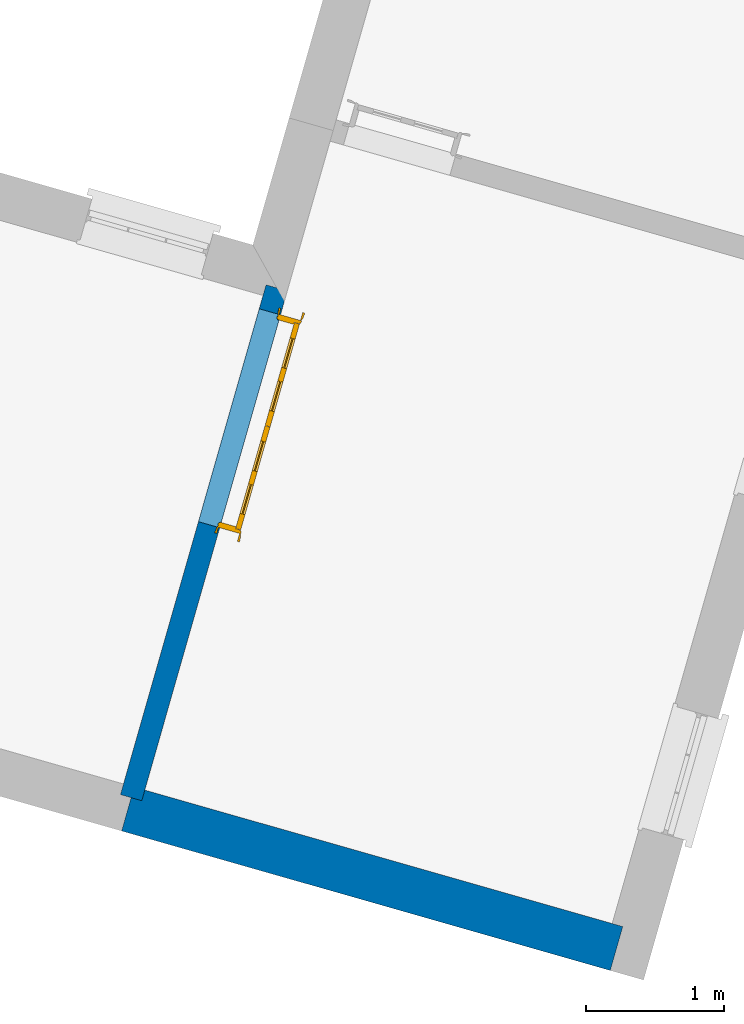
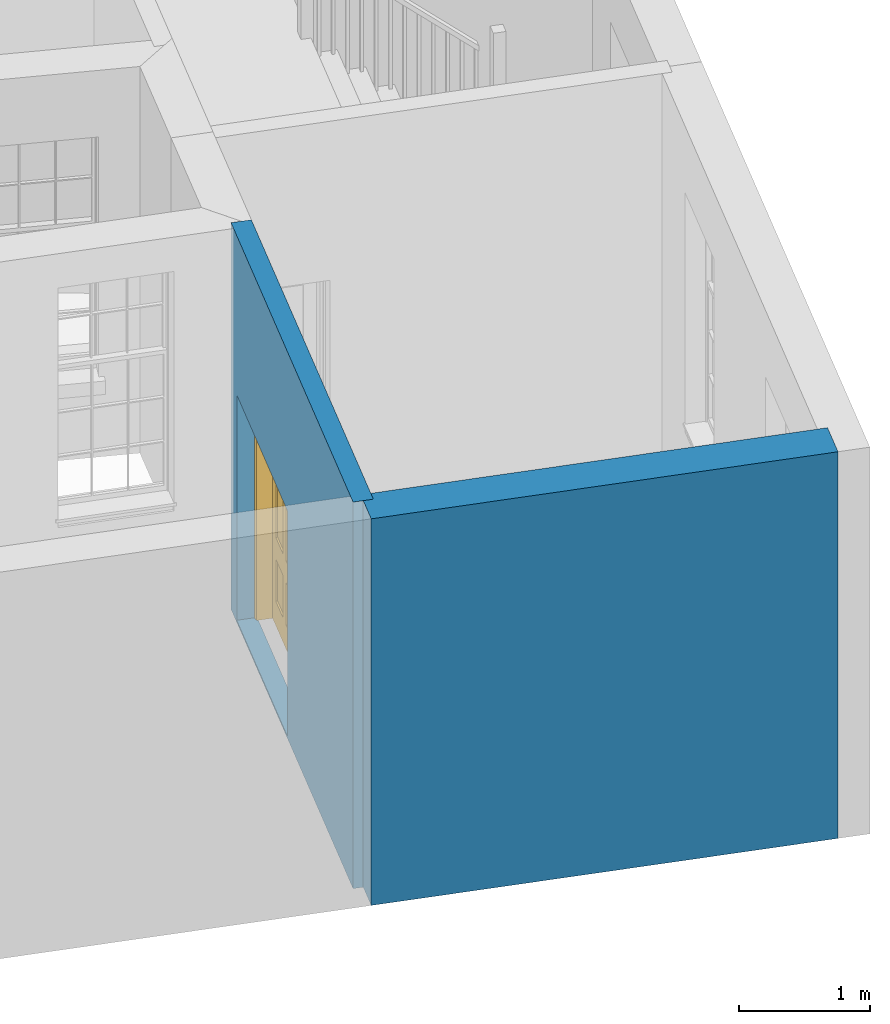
# One storey, part 2 of 6: 2 walls, 1 door, 1 opening.
"""IFC4 building model written with IfcOpenShell, lengths in metres."""

import ifcopenshell
import ifcopenshell.guid

model = None  # the IFC model being written
_history = None  # IfcOwnerHistory: only IFC2X3 demands one
_inside = {}  # id of a spatial element -> (the spatial element, [elements in it])
_under = {}  # id of a project, library or spatial element -> (it, [spatial elements below it])
_declared = {}  # id of a project -> (the project, [libraries it declares])
_typed = {}  # id of a type object -> (the type object, [elements of that type])
_made_of = {}  # id of a material, layer set ... -> (it, [elements and type objects made of it])


def new_model(schema):
    """Start an empty IFC model of exactly this schema.

    Asked for "IFC4X3", IfcOpenShell would pick the latest addendum, in which some entities
    have other attributes; the version numbers below select the first issue.
    IFC2X3 requires an IfcOwnerHistory on every rooted entity: one is made here for all.
    """
    global model, _history
    if schema == "IFC4X3":
        model = ifcopenshell.file(schema_version=(4, 3, 0, 0))
    else:
        model = ifcopenshell.file(schema=schema)
    _inside.clear()
    _under.clear()
    _declared.clear()
    _typed.clear()
    _made_of.clear()
    _history = None
    if model.schema == "IFC2X3":
        org = make("IfcOrganization", Name="unknown")
        user = make(
            "IfcPersonAndOrganization",
            ThePerson=make("IfcPerson", FamilyName="unknown"),
            TheOrganization=org,
        )
        app = make(
            "IfcApplication",
            ApplicationDeveloper=org,
            Version="unknown",
            ApplicationFullName="unknown",
            ApplicationIdentifier="unknown",
        )
        _history = make(
            "IfcOwnerHistory",
            OwningUser=user,
            OwningApplication=app,
            ChangeAction="ADDED",
            CreationDate=0,
        )
    return model


def make(cls, **values):
    """One entity of the class cls with the attributes given. An attribute that is None is left unset."""
    return model.create_entity(
        cls, **{name: value for name, value in values.items() if value is not None}
    )


def rooted(cls, **values):
    """An entity with a GlobalId (a new one), such as an element, a storey or a relation."""
    return make(cls, GlobalId=ifcopenshell.guid.new(), OwnerHistory=_history, **values)


def si_unit(unit_type, name, prefix=None):
    """IfcSIUnit, for example si_unit("LENGTHUNIT", "METRE", prefix="MILLI")."""
    return make("IfcSIUnit", UnitType=unit_type, Prefix=prefix, Name=name)


def assignment(units):
    """IfcUnitAssignment: the units of a project."""
    return None if units is None else make("IfcUnitAssignment", Units=units)


def point(xyz):
    """IfcCartesianPoint."""
    return None if xyz is None else make("IfcCartesianPoint", Coordinates=xyz)


def direction(xyz):
    """IfcDirection."""
    return None if xyz is None else make("IfcDirection", DirectionRatios=xyz)


def frame(location, z_axis=None, x_axis=None):
    """IfcAxis2Placement3D, a coordinate frame: its origin and axes. An axis left out is left unset."""
    return make(
        "IfcAxis2Placement3D",
        Location=point(location),
        Axis=direction(z_axis),
        RefDirection=direction(x_axis),
    )


def origin():
    """The frame at (0, 0, 0) with its axes left unset."""
    return frame((0.0, 0.0, 0.0))


def origin_with_axes():
    """The frame at (0, 0, 0) with the z axis (0, 0, 1) and the x axis (1, 0, 0) written out."""
    return frame((0.0, 0.0, 0.0), z_axis=(0.0, 0.0, 1.0), x_axis=(1.0, 0.0, 0.0))


def place(relative_to, where):
    """IfcLocalPlacement: puts the frame where relative to a parent placement (None: the world)."""
    return make(
        "IfcLocalPlacement", PlacementRelTo=relative_to, RelativePlacement=where
    )


def context(
    kind, dimensions, precision=None, world=None, true_north=None, identifier=None
):
    """IfcGeometricRepresentationContext, for example the 3D "Model" context."""
    return make(
        "IfcGeometricRepresentationContext",
        ContextIdentifier=identifier,
        ContextType=kind,
        CoordinateSpaceDimension=dimensions,
        Precision=precision,
        WorldCoordinateSystem=world,
        TrueNorth=true_north,
    )


def subcontext(parent, identifier, kind, view, scale=None):
    """IfcGeometricRepresentationSubContext, for example "Body" below "Model"."""
    return make(
        "IfcGeometricRepresentationSubContext",
        ContextIdentifier=identifier,
        ContextType=kind,
        ParentContext=parent,
        TargetScale=scale,
        TargetView=view,
    )


def project(units=None, contexts=None):
    """IfcProject with its units and contexts."""
    return rooted(
        "IfcProject",
        Name="project",
        RepresentationContexts=contexts,
        UnitsInContext=assignment(units),
    )


def spatial(cls, under=None, at=None, **own):
    """A site, building, storey or space (cls), placed at a placement, below another one or the project."""
    s = rooted(cls, ObjectPlacement=at, **own)
    if under is not None:
        _under.setdefault(under.id(), (under, []))[1].append(s)
    return s


def polyline(points):
    """IfcPolyline through the points."""
    return make("IfcPolyline", Points=[point(p) for p in points])


def outline(outer, holes=None, kind="AREA"):
    """IfcArbitraryClosedProfileDef: a profile drawn as a closed curve; with holes, ...WithVoids."""
    if holes is None:
        return make("IfcArbitraryClosedProfileDef", ProfileType=kind, OuterCurve=outer)
    return make(
        "IfcArbitraryProfileDefWithVoids",
        ProfileType=kind,
        OuterCurve=outer,
        InnerCurves=holes,
    )


def extrude(swept, where, along, depth):
    """IfcExtrudedAreaSolid: the profile swept, set in the frame where, extruded along a direction by depth."""
    return make(
        "IfcExtrudedAreaSolid",
        SweptArea=swept,
        Position=where,
        ExtrudedDirection=direction(along),
        Depth=depth,
    )


def faces_of(points, faces, orient=None, outer=None):
    """IfcFace entities. A face is a list of loops; a loop is a list of indices into points, from 0.

    orient and outer hold one flag for each loop. By default every Orientation is true, the
    first loop of a face is its IfcFaceOuterBound and the others are IfcFaceBound.
    """
    made = []
    for i, loops in enumerate(faces):
        bounds = []
        for j, loop in enumerate(loops):
            is_outer = j == 0 if outer is None else outer[i][j]
            bounds.append(
                make(
                    "IfcFaceOuterBound" if is_outer else "IfcFaceBound",
                    Bound=make("IfcPolyLoop", Polygon=[points[k] for k in loop]),
                    Orientation=True if orient is None else orient[i][j],
                )
            )
        made.append(make("IfcFace", Bounds=bounds))
    return made


def faceted_brep(points, faces, orient=None, outer=None, voids=None):
    """IfcFacetedBrep: a solid bounded by flat faces; with voids (closed shells), ...WithVoids."""
    shared = [point(p) for p in points]
    hull = make("IfcClosedShell", CfsFaces=faces_of(shared, faces, orient, outer))
    if voids is None:
        return make("IfcFacetedBrep", Outer=hull)
    return make(
        "IfcFacetedBrepWithVoids",
        Outer=hull,
        Voids=[
            make(cls, CfsFaces=faces_of(shared, fs, o, b)) for cls, fs, o, b in voids
        ],
    )


def shape(context_of_items, identifier, shape_type, items):
    """IfcShapeRepresentation: the items that make up one representation, for example the "Body"."""
    return make(
        "IfcShapeRepresentation",
        ContextOfItems=context_of_items,
        RepresentationIdentifier=identifier,
        RepresentationType=shape_type,
        Items=items,
    )


def source(mapping_origin, context_of_items, identifier, shape_type, items):
    """IfcRepresentationMap: a shape defined once, which mapped items show again and again."""
    return make(
        "IfcRepresentationMap",
        MappingOrigin=mapping_origin,
        MappedRepresentation=shape(context_of_items, identifier, shape_type, items),
    )


def transform(
    local_origin,
    x_axis=None,
    y_axis=None,
    z_axis=None,
    scale=None,
    scale2=None,
    scale3=None,
    uniform=True,
):
    """IfcCartesianTransformationOperator3D, or its non-uniform kind. x_axis, y_axis, z_axis: its Axis1, 2, 3."""
    if uniform:
        return make(
            "IfcCartesianTransformationOperator3D",
            Axis1=direction(x_axis),
            Axis2=direction(y_axis),
            LocalOrigin=point(local_origin),
            Scale=scale,
            Axis3=direction(z_axis),
        )
    return make(
        "IfcCartesianTransformationOperator3DnonUniform",
        Axis1=direction(x_axis),
        Axis2=direction(y_axis),
        LocalOrigin=point(local_origin),
        Scale=scale,
        Axis3=direction(z_axis),
        Scale2=scale2,
        Scale3=scale3,
    )


def mapped(mapping_source, mapping_target):
    """IfcMappedItem: shows the shape of a source again, moved by a transform."""
    return make(
        "IfcMappedItem", MappingSource=mapping_source, MappingTarget=mapping_target
    )


def material(Name=None, Category=None):
    """IfcMaterial."""
    return make("IfcMaterial", Name=Name, Category=Category)


def layer(
    of_material, thickness, ventilated=None, Name=None, Category=None, Priority=None
):
    """IfcMaterialLayer: one layer of a wall or slab, of a material (None: an air gap)."""
    return make(
        "IfcMaterialLayer",
        Material=of_material,
        LayerThickness=thickness,
        IsVentilated=ventilated,
        Name=Name,
        Category=Category,
        Priority=Priority,
    )


def layer_set(layers, Name=None):
    """IfcMaterialLayerSet."""
    return make("IfcMaterialLayerSet", MaterialLayers=layers, LayerSetName=Name)


def layer_usage(for_layer_set, set_direction, sense, offset, extent=None):
    """IfcMaterialLayerSetUsage: how a layer set lies in its element."""
    return make(
        "IfcMaterialLayerSetUsage",
        ForLayerSet=for_layer_set,
        LayerSetDirection=set_direction,
        DirectionSense=sense,
        OffsetFromReferenceLine=offset,
        ReferenceExtent=extent,
    )


def made_of(thing, what):
    """Note that an element or type object is made of a material, layer set ...; save() writes the relation."""
    if what is not None:
        _made_of.setdefault(what.id(), (what, []))[1].append(thing)
    return thing


def type_object(cls, material=None, **own):
    """A type object (cls), such as IfcWallType, which elements share."""
    return made_of(rooted(cls, **own), material)


def type_shapes(of_type, sources):
    """Give a type object the sources (RepresentationMaps) that its elements show as mapped items."""
    of_type.RepresentationMaps = sources


def element(
    cls,
    number,
    at=None,
    inside=None,
    cuts=None,
    type_object=None,
    material=None,
    context=None,
    identifier="Body",
    shape_type=None,
    held_by="IfcProductDefinitionShape",
    body=None,
    shapes=None,
    **own,
):
    """One element of the class cls, such as IfcWall. Its Tag is "e" and its number.

    at: its placement. inside: the storey or other place that contains it. cuts: it is an
    opening in that element (IfcRelVoidsElement). A single representation is given by context,
    identifier, shape_type and body (its items); several are given by shapes. held_by: the class
    of the entity that holds the representations. save() writes the other relations.
    """
    e = rooted(cls, Tag="e%d" % number, ObjectPlacement=at, **own)
    if body is not None:
        shapes = [shape(context, identifier, shape_type, body)]
    if shapes is not None:
        e.Representation = make(held_by, Representations=shapes)
    if inside is not None:
        _inside.setdefault(inside.id(), (inside, []))[1].append(e)
    if cuts is not None:
        rooted(
            "IfcRelVoidsElement", RelatingBuildingElement=cuts, RelatedOpeningElement=e
        )
    if type_object is not None:
        _typed.setdefault(type_object.id(), (type_object, []))[1].append(e)
    return made_of(e, material)


def fill(opening, filler):
    """IfcRelFillsElement: the door or window that sits in an opening."""
    return rooted(
        "IfcRelFillsElement",
        RelatingOpeningElement=opening,
        RelatedBuildingElement=filler,
    )


def aggregate(whole, parts):
    """IfcRelAggregates: a whole, such as a stair, and the parts it consists of."""
    return rooted("IfcRelAggregates", RelatingObject=whole, RelatedObjects=parts)


def save(model, path):
    """Write the relations noted so far, then the file.

    IfcRelAggregates (storeys below a building ...), IfcRelContainedInSpatialStructure (elements
    in a storey), IfcRelDefinesByType, IfcRelAssociatesMaterial and IfcRelDeclares: one each for
    every whole, place, type object, material and project.
    """
    for whole, parts in _under.values():
        aggregate(whole, parts)
    for where, things in _inside.values():
        rooted(
            "IfcRelContainedInSpatialStructure",
            RelatedElements=things,
            RelatingStructure=where,
        )
    for kind, things in _typed.values():
        rooted("IfcRelDefinesByType", RelatedObjects=things, RelatingType=kind)
    for what, things in _made_of.values():
        rooted("IfcRelAssociatesMaterial", RelatedObjects=things, RelatingMaterial=what)
    for by, libraries in _declared.values():
        rooted("IfcRelDeclares", RelatingContext=by, RelatedDefinitions=libraries)
    model.write(path)


model = new_model("IFC4")

# Units and contexts
model_context = context("Model", 3, world=origin_with_axes())
body_context = subcontext(model_context, "Body", "Model", "MODEL_VIEW")
ifc_project = project(units=[si_unit("PLANEANGLEUNIT", "RADIAN"), si_unit("MASSUNIT", "GRAM", prefix="KILO"), si_unit("FORCEUNIT", "NEWTON", prefix="KILO"), si_unit("LENGTHUNIT", "METRE"), si_unit("AREAUNIT", "SQUARE_METRE"), si_unit("VOLUMEUNIT", "CUBIC_METRE")], contexts=[model_context, model_context])

# Sites, building, storey
site_1_placement = place(None, origin_with_axes())
site_1 = spatial("IfcSite", under=ifc_project, at=site_1_placement, Name="Tamar")
site_2_placement = place(site_1_placement, origin_with_axes())
site_2 = spatial("IfcSite", under=site_1, at=site_2_placement, Name="Site plot-19", CompositionType="ELEMENT")
building_placement = place(None, origin_with_axes())
building = spatial("IfcBuilding", under=site_2, at=building_placement, Name="Building plot-19", CompositionType="ELEMENT")
storey_placement = place(None, frame((0.0, 0.0, 26.8), z_axis=(0.0, 0.0, 1.0), x_axis=(1.0, 0.0, 0.0)))
storey = spatial("IfcBuildingStorey", under=building, at=storey_placement, Name="plot-19 0", CompositionType="ELEMENT", Elevation=26.8)

# Wall
ifc_material_1 = material(Name="Masonry")
ifc_layer_1 = layer(ifc_material_1, 0.33, ventilated=False)
ifc_layer_set_1 = layer_set([ifc_layer_1], Name="party_0.08_0.25")
ifc_layer_usage_1 = layer_usage(ifc_layer_set_1, "AXIS2", "POSITIVE", -0.25)
wall_type_1 = type_object("IfcWallType", Name="party_0.08_0.25", PredefinedType="SOLIDWALL", material=ifc_layer_set_1)
wall_1_placement = place(storey_placement, frame((279.004893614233, 294.360851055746, 0.0), z_axis=(0.0, 0.0, 1.0), x_axis=(0.961567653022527, -0.274568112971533, 0.0)))
element("IfcWall", 1, at=wall_1_placement, inside=storey, type_object=wall_type_1, material=ifc_layer_usage_1, Name="party", context=body_context, shape_type="SweptSolid", body=[
    extrude(outline(polyline([(1.62052729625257e-14, 0.079999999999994), (-1.07040652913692e-14, -0.249999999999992), (3.67124937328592, -0.249999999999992), (3.67124937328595, 0.079999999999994), (1.62052729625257e-14, 0.079999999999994)])), origin_with_axes(), (0.0, 0.0, 1.0), 3.6),
])

# Wall, opening, door
ifc_material_2 = material(Name="Masonry")
ifc_layer_2 = layer(ifc_material_2, 0.16, ventilated=False)
ifc_layer_set_2 = layer_set([ifc_layer_2], Name="interior_0.08_0.08")
ifc_layer_usage_2 = layer_usage(ifc_layer_set_2, "AXIS2", "POSITIVE", -0.08)
wall_type_2 = type_object("IfcWallType", Name="interior_0.08_0.08", PredefinedType="SOLIDWALL", material=ifc_layer_set_2)
wall_2_placement = place(storey_placement, frame((280.056584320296, 298.043987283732, 0.0), z_axis=(0.0, 0.0, 1.0), x_axis=(-0.274568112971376, -0.961567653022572, 0.0)))
wall_2 = element("IfcWall", 2, at=wall_2_placement, inside=storey, type_object=wall_type_2, material=ifc_layer_usage_2, Name="interior", context=body_context, shape_type="SweptSolid", body=[
    extrude(outline(polyline([(2.92596649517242e-14, 0.079999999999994), (-2.92694621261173e-14, -0.079999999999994), (3.83034539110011, -0.0799999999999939), (3.83034539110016, 0.0799999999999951), (2.92596649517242e-14, 0.079999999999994)])), origin_with_axes(), (0.0, 0.0, 1.0), 3.6),
])
opening_placement = place(wall_2_placement, frame((0.179999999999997, 0.0, 0.0199999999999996)))
opening = element("IfcOpeningElement", 3, at=opening_placement, cuts=wall_2, Name="My Opening", ObjectType="Opening", context=body_context, shape_type="SweptSolid", body=[
    extrude(outline(polyline([(0.0, -0.100000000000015), (1.60000000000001, -0.100000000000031), (1.60000000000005, 1.10000000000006), (3.28070903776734e-14, 1.10000000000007), (0.0, -0.100000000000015)])), origin_with_axes(), (0.0, 0.0, 1.0), 2.1),
])
door_type = type_object("IfcDoorType", Name="door_inside_double", OperationType="SINGLE_SWING_LEFT", PredefinedType="NOTDEFINED")
shared_shape = source(origin(), body_context, "Body", "Brep", [
    faceted_brep([(0.14, 0.307, 1.895), (0.14, 0.307, 0.82), (0.363, 0.307, 0.82), (0.363, 0.307, 1.895), (0.14, 0.292, 1.895), (0.14, 0.292, 0.82), (0.363, 0.292, 0.82), (0.363, 0.292, 1.895), (0.027, 0.292, 1.895), (0.027, 0.292, 0.82), (0.363, 0.292, 0.62), (0.14, 0.292, 0.62), (0.463, 0.292, 0.82), (0.463, 0.292, 1.895), (0.363, 0.292, 2.073), (0.14, 0.292, 2.073), (0.027, 0.292, 2.073), (0.027, 0.33, 1.895), (0.027, 0.33, 0.82), (0.027, 0.292, 0.62), (0.463, 0.292, 0.62), (0.14, 0.307, 0.62), (0.363, 0.307, 0.62), (0.463, 0.307, 0.82), (0.463, 0.307, 1.895), (0.463, 0.292, 2.073), (0.14, 0.33, 2.073), (0.363, 0.33, 2.073), (0.027, 0.33, 2.073), (0.14, 0.33, 1.895), (0.14, 0.33, 0.82), (0.027, 0.33, 0.62), (0.027, 0.292, 0.225), (0.14, 0.292, 0.225), (0.363, 0.292, 0.225), (0.463, 0.292, 0.225), (0.686, 0.292, 0.62), (0.686, 0.292, 0.82), (0.14, 0.307, 0.225), (0.363, 0.307, 0.225), (0.686, 0.307, 0.82), (0.686, 0.307, 1.895), (0.686, 0.292, 1.895), (0.686, 0.292, 2.073), (0.463, 0.33, 2.073), (0.363, 0.33, 1.895), (0.14, 0.315, 1.895), (0.14, 0.315, 0.82), (0.14, 0.33, 0.62), (0.027, 0.33, 0.225), (0.027, 0.292, 0.0), (0.14, 0.292, 0.0), (0.363, 0.292, 0.0), (0.463, 0.292, 0.0), (0.463, 0.307, 0.225), (0.463, 0.307, 0.62), (0.686, 0.307, 0.62), (0.799, 0.292, 0.62), (0.799, 0.292, 0.82), (0.799, 0.292, 1.895), (0.799, 0.292, 2.073), (0.686, 0.33, 2.073), (0.463, 0.33, 1.895), (0.363, 0.315, 1.895), (0.363, 0.315, 0.82), (0.363, 0.33, 0.82), (0.363, 0.33, 0.62), (0.14, 0.33, 0.225), (0.027, 0.33, 0.0), (0.14, 0.33, 0.0), (0.363, 0.33, 0.0), (0.463, 0.33, 0.0), (0.686, 0.292, 0.0), (0.686, 0.292, 0.225), (0.686, 0.307, 0.225), (0.799, 0.292, 0.225), (0.799, 0.33, 0.62), (0.799, 0.33, 0.82), (0.799, 0.33, 1.895), (0.799, 0.33, 2.073), (0.686, 0.33, 1.895), (0.463, 0.33, 0.82), (0.463, 0.33, 0.62), (0.363, 0.315, 0.62), (0.14, 0.315, 0.62), (0.14, 0.315, 0.225), (0.363, 0.33, 0.225), (0.463, 0.33, 0.225), (0.686, 0.33, 0.0), (0.799, 0.292, 0.0), (0.799, 0.33, 0.225), (0.686, 0.33, 0.62), (0.686, 0.33, 0.82), (0.686, 0.315, 1.895), (0.463, 0.315, 1.895), (0.463, 0.315, 0.82), (0.363, 0.315, 0.225), (0.686, 0.33, 0.225), (0.799, 0.33, 0.0), (0.686, 0.315, 0.82), (0.463, 0.315, 0.62), (0.463, 0.315, 0.225), (0.686, 0.315, 0.62), (0.686, 0.315, 0.225), (1.46, 0.33, 1.895), (1.237, 0.33, 1.895), (1.237, 0.33, 2.073), (1.46, 0.33, 2.073), (1.46, 0.315, 1.895), (1.237, 0.315, 1.895), (1.137, 0.33, 1.895), (1.137, 0.33, 2.073), (1.237, 0.292, 2.073), (1.46, 0.292, 2.073), (1.573, 0.33, 1.895), (1.573, 0.33, 2.073), (1.46, 0.33, 0.82), (1.46, 0.315, 0.82), (1.237, 0.315, 0.82), (1.237, 0.33, 0.82), (1.137, 0.33, 0.82), (0.914, 0.33, 2.073), (0.914, 0.33, 1.895), (1.137, 0.292, 2.073), (1.237, 0.292, 1.895), (1.46, 0.292, 1.895), (1.573, 0.292, 2.073), (1.573, 0.33, 0.82), (1.573, 0.292, 1.895), (1.237, 0.33, 0.62), (1.137, 0.33, 0.62), (1.137, 0.315, 0.82), (1.137, 0.315, 1.895), (0.914, 0.292, 2.073), (0.914, 0.315, 1.895), (0.801, 0.33, 2.073), (0.801, 0.33, 1.895), (1.137, 0.292, 1.895), (1.237, 0.307, 1.895), (1.46, 0.307, 1.895), (1.573, 0.292, 0.82), (1.573, 0.33, 0.62), (1.46, 0.33, 0.62), (1.237, 0.33, 0.225), (1.137, 0.33, 0.225), (0.914, 0.33, 0.82), (0.914, 0.33, 0.62), (0.914, 0.315, 0.82), (0.801, 0.292, 2.073), (0.914, 0.292, 1.895), (0.801, 0.33, 0.82), (0.801, 0.292, 1.895), (1.137, 0.292, 0.82), (1.237, 0.292, 0.82), (1.237, 0.307, 0.82), (1.46, 0.307, 0.82), (1.46, 0.292, 0.82), (1.573, 0.292, 0.62), (1.573, 0.33, 0.225), (1.46, 0.33, 0.225), (1.46, 0.315, 0.62), (1.237, 0.315, 0.62), (1.237, 0.33, 0.0), (1.137, 0.33, 0.0), (1.137, 0.315, 0.225), (1.137, 0.315, 0.62), (1.237, 0.315, 0.225), (0.914, 0.315, 0.62), (0.801, 0.33, 0.62), (0.914, 0.307, 1.895), (1.137, 0.307, 1.895), (0.801, 0.292, 0.82), (1.137, 0.292, 0.62), (1.237, 0.292, 0.62), (1.137, 0.307, 0.82), (1.46, 0.292, 0.62), (1.573, 0.292, 0.225), (1.573, 0.33, 0.0), (1.46, 0.33, 0.0), (1.46, 0.315, 0.225), (1.237, 0.292, 0.0), (1.137, 0.292, 0.0), (0.914, 0.33, 0.225), (0.914, 0.33, 0.0), (0.914, 0.315, 0.225), (0.801, 0.33, 0.225), (0.801, 0.292, 0.62), (0.914, 0.292, 0.82), (0.914, 0.307, 0.82), (1.137, 0.292, 0.225), (1.237, 0.292, 0.225), (0.914, 0.292, 0.62), (1.46, 0.292, 0.225), (1.573, 0.292, 0.0), (1.46, 0.292, 0.0), (0.914, 0.292, 0.0), (0.801, 0.33, 0.0), (0.801, 0.292, 0.225), (1.237, 0.307, 0.225), (1.237, 0.307, 0.62), (1.137, 0.307, 0.62), (1.137, 0.307, 0.225), (1.46, 0.307, 0.62), (0.914, 0.307, 0.62), (1.46, 0.307, 0.225), (0.914, 0.292, 0.225), (0.801, 0.292, 0.0), (0.914, 0.307, 0.225), (0.02, 0.335, 0.0), (0.005, 0.34, 0.0), (0.005, 0.34, 2.095), (0.02, 0.335, 2.08), (0.02, 0.33, 0.0), (0.0, 0.335, 0.0), (0.0, 0.335, 2.1), (1.595, 0.34, 2.095), (1.58, 0.335, 2.08), (0.02, 0.33, 2.08), (0.0, 0.33, 0.0), (-0.032, 0.345, 0.0), (-0.032, 0.345, 2.132), (1.6, 0.335, 2.1), (1.595, 0.34, 0.0), (1.58, 0.335, 0.0), (1.58, 0.33, 2.08), (0.025, 0.33, 0.0), (0.025, 0.33, 2.075), (-0.04, 0.34, 0.0), (0.025, 0.29, 0.0), (0.0, 0.17, 0.0), (-0.04, 0.34, 2.14), (1.632, 0.345, 2.132), (1.6, 0.335, 0.0), (1.58, 0.33, 0.0), (1.575, 0.33, 2.075), (0.025, 0.29, 2.075), (-0.06, 0.33, 0.0), (0.035, 0.17, 0.0), (0.0, 0.17, 2.1), (0.0, 0.33, 2.1), (-0.04, 0.345, 0.0), (-0.04, 0.345, 2.14), (1.64, 0.34, 2.14), (1.632, 0.345, 0.0), (1.6, 0.33, 0.0), (1.575, 0.33, 0.0), (1.575, 0.29, 2.075), (0.04, 0.29, 0.0), (0.04, 0.29, 2.06), (-0.06, 0.345, 0.0), (-0.06, 0.33, 2.16), (0.015, 0.165, 0.0), (0.04, 0.17, 0.0), (-0.045, 0.17, 2.145), (-0.045, 0.17, 0.0), (1.6, 0.17, 2.1), (1.6, 0.33, 2.1), (-0.06, 0.345, 2.16), (1.64, 0.345, 2.14), (1.64, 0.34, 0.0), (1.6, 0.17, 0.0), (1.575, 0.29, 0.0), (1.56, 0.29, 2.06), (0.04, 0.17, 2.06), (1.66, 0.33, 2.16), (-0.017, 0.155, 0.0), (-0.025, 0.16, 0.0), (0.02, 0.16, 0.0), (0.035, 0.165, 0.0), (0.035, 0.17, 2.065), (1.645, 0.17, 2.145), (-0.045, 0.155, 2.145), (-0.045, 0.155, 0.0), (1.66, 0.345, 2.16), (1.64, 0.345, 0.0), (1.66, 0.33, 0.0), (1.565, 0.17, 0.0), (1.56, 0.29, 0.0), (1.56, 0.17, 2.06), (-0.017, 0.155, 2.117), (-0.025, 0.16, 2.125), (0.015, 0.165, 2.085), (0.02, 0.16, 2.08), (0.035, 0.165, 2.065), (1.565, 0.17, 2.065), (1.645, 0.17, 0.0), (1.645, 0.155, 2.145), (-0.025, 0.155, 0.0), (1.66, 0.345, 0.0), (1.585, 0.165, 0.0), (1.56, 0.17, 0.0), (1.617, 0.155, 2.117), (1.625, 0.16, 2.125), (-0.025, 0.155, 2.125), (1.585, 0.165, 2.085), (1.58, 0.16, 2.08), (1.565, 0.165, 2.065), (1.625, 0.16, 0.0), (1.645, 0.155, 0.0), (1.625, 0.155, 2.125), (1.617, 0.155, 0.0), (1.565, 0.165, 0.0), (1.58, 0.16, 0.0), (1.625, 0.155, 0.0)], [[[0, 1, 2, 3]], [[1, 0, 4, 5]], [[2, 1, 5, 6]], [[6, 7, 3, 2]], [[7, 4, 0, 3]], [[4, 8, 9, 5]], [[10, 6, 5, 11]], [[6, 12, 13, 7]], [[14, 15, 4, 7]], [[15, 16, 8, 4]], [[9, 8, 17, 18]], [[5, 9, 19, 11]], [[10, 20, 12, 6]], [[10, 11, 21, 22]], [[13, 12, 23, 24]], [[7, 13, 25, 14]], [[26, 15, 14, 27]], [[28, 16, 15, 26]], [[8, 16, 28, 17]], [[17, 29, 30, 18]], [[18, 31, 19, 9]], [[11, 19, 32, 33]], [[34, 35, 20, 10]], [[20, 36, 37, 12]], [[11, 33, 38, 21]], [[39, 22, 21, 38]], [[34, 10, 22, 39]], [[12, 37, 40, 23]], [[24, 23, 40, 41]], [[42, 13, 24, 41]], [[13, 42, 43, 25]], [[14, 25, 44, 27]], [[26, 27, 45, 29]], [[28, 26, 29, 17]], [[30, 29, 46, 47]], [[18, 30, 48, 31]], [[31, 49, 32, 19]], [[33, 32, 50, 51]], [[52, 53, 35, 34]], [[20, 35, 54, 55]], [[36, 20, 55, 56]], [[36, 57, 58, 37]], [[33, 34, 39, 38]], [[37, 42, 41, 40]], [[42, 59, 60, 43]], [[44, 25, 43, 61]], [[62, 45, 27, 44]], [[29, 45, 63, 46]], [[46, 63, 64, 47]], [[65, 30, 47, 64]], [[30, 65, 66, 48]], [[31, 48, 67, 49]], [[68, 50, 32, 49]], [[68, 69, 51, 50]], [[34, 33, 51, 52]], [[53, 52, 70, 71]], [[53, 72, 73, 35]], [[35, 73, 74, 54]], [[55, 54, 74, 56]], [[73, 36, 56, 74]], [[73, 75, 57, 36]], [[57, 76, 77, 58]], [[37, 58, 59, 42]], [[78, 79, 60, 59]], [[60, 79, 61, 43]], [[80, 62, 44, 61]], [[81, 65, 45, 62]], [[45, 65, 64, 63]], [[82, 66, 65, 81]], [[48, 66, 83, 84]], [[67, 48, 84, 85]], [[49, 67, 69, 68]], [[52, 51, 69, 70]], [[71, 70, 86, 87]], [[72, 53, 71, 88]], [[72, 89, 75, 73]], [[75, 90, 76, 57]], [[76, 91, 92, 77]], [[78, 59, 58, 77]], [[78, 80, 61, 79]], [[62, 80, 93, 94]], [[81, 62, 94, 95]], [[87, 86, 66, 82]], [[91, 82, 81, 92]], [[66, 86, 96, 83]], [[84, 83, 96, 85]], [[86, 67, 85, 96]], [[67, 86, 70, 69]], [[88, 71, 87, 97]], [[89, 72, 88, 98]], [[89, 98, 90, 75]], [[90, 97, 91, 76]], [[80, 78, 77, 92]], [[80, 92, 99, 93]], [[99, 95, 94, 93]], [[92, 81, 95, 99]], [[87, 82, 100, 101]], [[82, 91, 102, 100]], [[97, 87, 101, 103]], [[98, 88, 97, 90]], [[91, 97, 103, 102]], [[103, 101, 100, 102]], [[104, 105, 106, 107]], [[105, 104, 108, 109]], [[105, 110, 111, 106]], [[106, 112, 113, 107]], [[114, 104, 107, 115]], [[104, 116, 117, 108]], [[117, 118, 109, 108]], [[119, 105, 109, 118]], [[119, 120, 110, 105]], [[121, 111, 110, 122]], [[123, 112, 106, 111]], [[124, 125, 113, 112]], [[126, 115, 107, 113]], [[104, 114, 127, 116]], [[114, 115, 126, 128]], [[116, 119, 118, 117]], [[129, 130, 120, 119]], [[110, 120, 131, 132]], [[121, 133, 123, 111]], [[122, 110, 132, 134]], [[135, 121, 122, 136]], [[137, 124, 112, 123]], [[125, 124, 138, 139]], [[125, 128, 126, 113]], [[114, 128, 140, 127]], [[141, 142, 116, 127]], [[142, 129, 119, 116]], [[143, 144, 130, 129]], [[145, 120, 130, 146]], [[120, 145, 147, 131]], [[134, 132, 131, 147]], [[135, 148, 133, 121]], [[123, 133, 149, 137]], [[145, 122, 134, 147]], [[136, 122, 145, 150]], [[151, 148, 135, 136]], [[152, 153, 124, 137]], [[124, 153, 154, 138]], [[138, 154, 155, 139]], [[156, 125, 139, 155]], [[156, 140, 128, 125]], [[157, 141, 127, 140]], [[158, 159, 142, 141]], [[129, 142, 160, 161]], [[162, 163, 144, 143]], [[130, 144, 164, 165]], [[143, 129, 161, 166]], [[146, 130, 165, 167]], [[150, 145, 146, 168]], [[133, 148, 151, 149]], [[137, 149, 169, 170]], [[171, 151, 136, 150]], [[172, 173, 153, 152]], [[152, 137, 170, 174]], [[153, 156, 155, 154]], [[175, 157, 140, 156]], [[176, 158, 141, 157]], [[177, 178, 159, 158]], [[142, 159, 179, 160]], [[179, 166, 161, 160]], [[180, 181, 163, 162]], [[182, 144, 163, 183]], [[178, 162, 143, 159]], [[144, 182, 184, 164]], [[167, 165, 164, 184]], [[159, 143, 166, 179]], [[182, 146, 167, 184]], [[168, 146, 182, 185]], [[150, 168, 186, 171]], [[149, 151, 171, 187]], [[149, 187, 188, 169]], [[169, 188, 174, 170]], [[189, 190, 173, 172]], [[173, 175, 156, 153]], [[172, 152, 187, 191]], [[187, 152, 174, 188]], [[192, 176, 157, 175]], [[193, 177, 158, 176]], [[193, 194, 178, 177]], [[181, 180, 190, 189]], [[181, 195, 183, 163]], [[194, 180, 162, 178]], [[185, 182, 183, 196]], [[168, 185, 197, 186]], [[187, 171, 186, 191]], [[173, 190, 198, 199]], [[189, 172, 200, 201]], [[175, 173, 199, 202]], [[172, 191, 203, 200]], [[194, 193, 176, 192]], [[192, 175, 202, 204]], [[180, 194, 192, 190]], [[189, 205, 195, 181]], [[196, 183, 195, 206]], [[196, 206, 197, 185]], [[191, 186, 197, 205]], [[190, 192, 204, 198]], [[199, 198, 204, 202]], [[201, 200, 203, 207]], [[205, 189, 201, 207]], [[191, 205, 207, 203]], [[205, 197, 206, 195]], [[208, 209, 210, 211]], [[208, 212, 213, 209]], [[209, 213, 214, 210]], [[211, 210, 215, 216]], [[211, 217, 212, 208]], [[218, 213, 212]], [[213, 219, 220, 214]], [[210, 214, 221, 215]], [[216, 215, 222, 223]], [[217, 211, 216, 224]], [[225, 212, 217, 226]], [[219, 213, 218, 227]], [[218, 212, 228, 229]], [[219, 227, 230, 220]], [[214, 220, 231, 221]], [[215, 221, 232, 222]], [[222, 232, 233, 223]], [[224, 216, 223, 233]], [[226, 217, 224, 234]], [[225, 228, 212]], [[235, 228, 225, 226]], [[236, 227, 218]], [[237, 229, 228]], [[229, 238, 239, 218]], [[227, 240, 241, 230]], [[220, 230, 242, 231]], [[221, 231, 243, 232]], [[244, 233, 232]], [[234, 224, 233, 245]], [[246, 235, 226, 234]], [[247, 228, 235, 248]], [[240, 227, 236, 249]], [[239, 250, 236, 218]], [[251, 229, 237]], [[252, 237, 228, 247]], [[253, 238, 229, 254]], [[238, 255, 256, 239]], [[241, 240, 257]], [[230, 241, 258, 242]], [[231, 242, 259, 243]], [[259, 244, 232, 243]], [[260, 261, 233, 244]], [[245, 233, 261]], [[261, 246, 234, 245]], [[248, 235, 246, 262]], [[248, 263, 252, 247]], [[250, 257, 249, 236]], [[240, 249, 257]], [[256, 264, 250, 239]], [[265, 266, 229, 251]], [[267, 251, 237, 268]], [[263, 269, 237, 252]], [[270, 255, 238, 253]], [[229, 266, 254]], [[271, 253, 254, 272]], [[256, 255, 260, 244]], [[273, 241, 257]], [[273, 258, 241]], [[242, 258, 274, 259]], [[275, 244, 259]], [[260, 276, 261]], [[261, 277, 262, 246]], [[262, 278, 263, 248]], [[264, 273, 257, 250]], [[244, 275, 264, 256]], [[266, 265, 279, 280]], [[265, 251, 281, 279]], [[251, 267, 282, 281]], [[269, 283, 268, 237]], [[267, 268, 283, 282]], [[278, 284, 269, 263]], [[285, 260, 255, 270]], [[286, 270, 253, 271]], [[272, 254, 266, 287]], [[271, 272, 287]], [[273, 274, 258]], [[288, 275, 259, 274]], [[276, 260, 289]], [[277, 261, 276, 290]], [[278, 262, 277, 290]], [[275, 288, 273, 264]], [[280, 279, 291, 292]], [[287, 266, 280, 293]], [[279, 281, 294, 291]], [[281, 282, 295, 294]], [[284, 296, 283, 269]], [[282, 283, 296, 295]], [[290, 276, 284, 278]], [[285, 297, 260]], [[298, 285, 270, 286]], [[299, 286, 271]], [[271, 287, 293]], [[273, 288, 274]], [[300, 289, 260, 297]], [[301, 276, 289, 302]], [[292, 291, 300, 297]], [[293, 280, 292, 299]], [[291, 294, 289, 300]], [[294, 295, 302, 289]], [[296, 284, 276, 301]], [[295, 296, 301, 302]], [[303, 297, 285, 298]], [[299, 298, 286]], [[271, 293, 299]], [[299, 292, 297, 303]], [[299, 303, 298]]]),
])
type_shapes(door_type, [shared_shape])
door_placement = place(storey_placement, frame((279.911005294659, 297.898361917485, 0.0199999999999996), z_axis=(0.0, 0.0, 1.0), x_axis=(-0.43930898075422, -1.53850824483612, 0.0)))
door = element("IfcDoor", 4, at=door_placement, inside=storey, type_object=door_type, Name="kitchen living inside door", OverallHeight=2.1, OverallWidth=1.6, context=body_context, shape_type="MappedRepresentation", body=[
    mapped(shared_shape, transform((0.0, 0.0, 0.0), scale=1.0)),
])
fill(opening, door)

save(model, "model.ifc")
